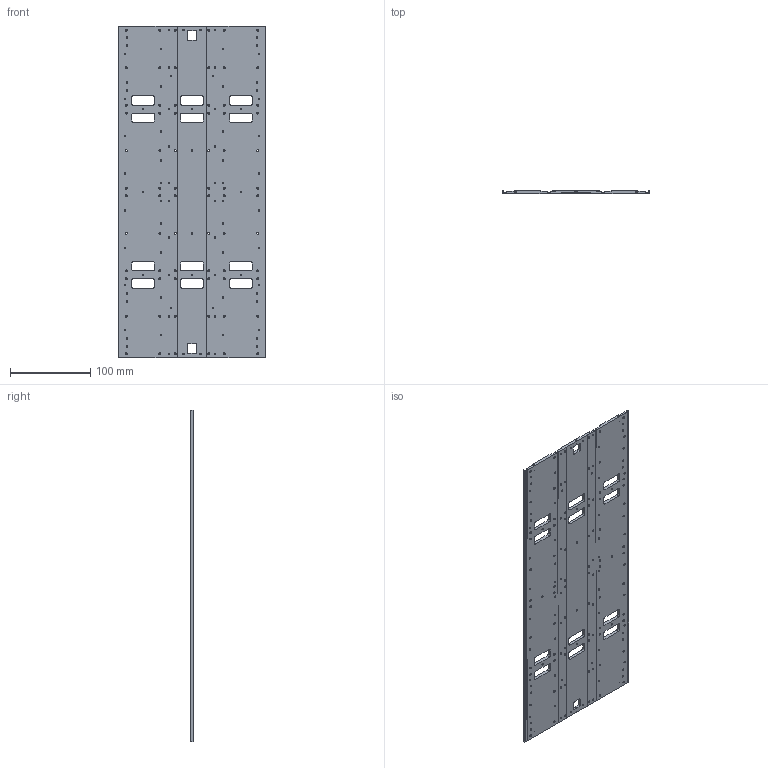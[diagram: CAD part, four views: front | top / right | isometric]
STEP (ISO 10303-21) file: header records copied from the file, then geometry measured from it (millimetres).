
FILE_DESCRIPTION(/* description */ (''),/* implementation_level */ '2;1');
FILE_NAME(/* name */ '210908_TubesOnTop_v3_CPtype3.stp',/* time_stamp */ '2021-09-10T14:17:41+02:00',/* author */ (''),/* organization */ (''),/* preprocessor_version */ 'ST-DEVELOPER v16.7',/* originating_system */ 'SIEMENS PLM Software NX 1919',/* authorisation */ '');
FILE_SCHEMA (('AUTOMOTIVE_DESIGN { 1 0 10303 214 3 1 1 1 }'));
Length unit declared in the file: millimetre
Products named in the file (1): 210908_TubesOnTop_v3_CPtype3
Bounding box: 184 x 4 x 413.3 mm (x, y, z)
Volume: 232890.9 mm3; surface area: 164084 mm2
Topology: 1 solids, 1 shells, 550 faces, 1549 edges, 1077 vertices
Faces by surface type: cylinder 338, plane 190, cone 22
Full cylindrical faces by diameter (mm): 2.05 x90, 2.5 x78, 4 x2, 6 x72
Entity records: 16252 total; most frequent: DIRECTION 2922, CARTESIAN_POINT 2599, ORIENTED_EDGE 2252, EDGE_LOOP 1246, AXIS2_PLACEMENT_3D 1245, EDGE_CURVE 1126, FACE_BOUND 1052, VERTEX_POINT 922
